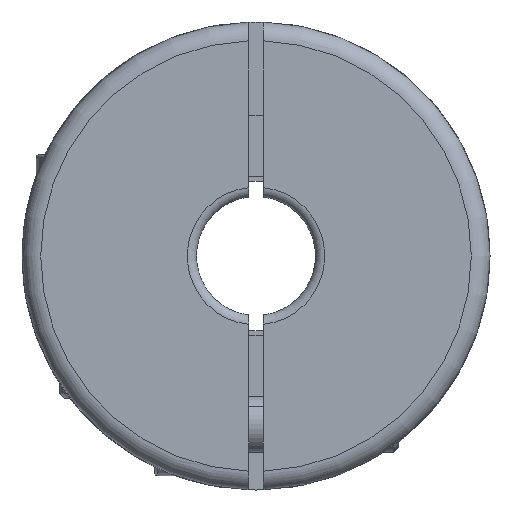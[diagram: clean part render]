
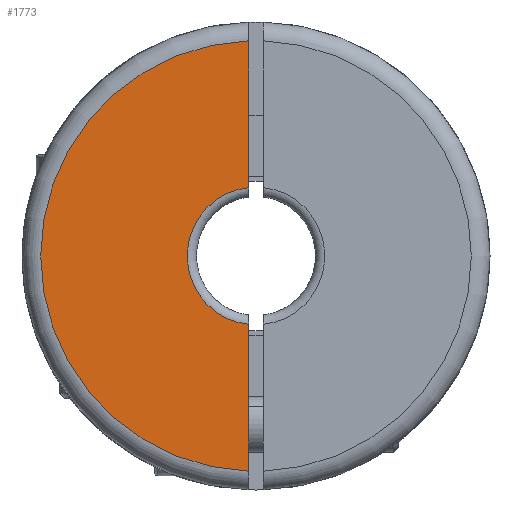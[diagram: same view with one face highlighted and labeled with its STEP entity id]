
A CAD part, left-side view. The second image highlights one B-rep face of the part: STEP entity #1773.
In plain terms, the highlighted planar face has unit normal (-1, 0, 0).
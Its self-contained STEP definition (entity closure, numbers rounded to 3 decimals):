
#2 = CIRCLE ( 'NONE', #2083, 3.675 ) ;
#19 = CARTESIAN_POINT ( 'NONE',  ( -15.5, 0.4, 12.494 ) ) ;
#149 = CARTESIAN_POINT ( 'NONE',  ( -15.5, 0., 0. ) ) ;
#166 = LINE ( 'NONE', #2839, #2741 ) ;
#247 = ORIENTED_EDGE ( 'NONE', *, *, #3742, .T. ) ;
#499 = DIRECTION ( 'NONE',  ( 0., 0., -1. ) ) ;
#714 = DIRECTION ( 'NONE',  ( -1., 0., 0. ) ) ;
#750 = VERTEX_POINT ( 'NONE', #3282 ) ;
#917 = VERTEX_POINT ( 'NONE', #3242 ) ;
#1040 = FACE_OUTER_BOUND ( 'NONE', #4424, .T. ) ;
#1098 = EDGE_CURVE ( 'NONE', #750, #917, #2584, .T. ) ;
#1216 = CARTESIAN_POINT ( 'NONE',  ( -15.5, 0., 0. ) ) ;
#1233 = EDGE_CURVE ( 'NONE', #3837, #750, #4032, .T. ) ;
#1242 = AXIS2_PLACEMENT_3D ( 'NONE', #2818, #714, #3180 ) ;
#1310 = EDGE_CURVE ( 'NONE', #917, #4487, #166, .T. ) ;
#1311 = AXIS2_PLACEMENT_3D ( 'NONE', #1216, #3689, #1567 ) ;
#1567 = DIRECTION ( 'NONE',  ( 0., 0., -1. ) ) ;
#1773 = ADVANCED_FACE ( 'NONE', ( #1040 ), #2249, .F. ) ;
#1791 = DIRECTION ( 'NONE',  ( 0., 0., 1. ) ) ;
#1882 = ORIENTED_EDGE ( 'NONE', *, *, #1310, .T. ) ;
#2083 = AXIS2_PLACEMENT_3D ( 'NONE', #149, #2607, #499 ) ;
#2249 = PLANE ( 'NONE',  #1311 ) ;
#2584 = CIRCLE ( 'NONE', #1242, 11.5 ) ;
#2607 = DIRECTION ( 'NONE',  ( 1., 0., 0. ) ) ;
#2615 = ORIENTED_EDGE ( 'NONE', *, *, #1098, .T. ) ;
#2741 = VECTOR ( 'NONE', #3918, 1000. ) ;
#2818 = CARTESIAN_POINT ( 'NONE',  ( -15.5, 0., 0. ) ) ;
#2839 = CARTESIAN_POINT ( 'NONE',  ( -15.5, 0.4, 12.494 ) ) ;
#3076 = VECTOR ( 'NONE', #1791, 1000. ) ;
#3180 = DIRECTION ( 'NONE',  ( 0., 0., -1. ) ) ;
#3242 = CARTESIAN_POINT ( 'NONE',  ( -15.5, 0.4, -11.493 ) ) ;
#3269 = CARTESIAN_POINT ( 'NONE',  ( -15.5, 0.4, -3.653 ) ) ;
#3282 = CARTESIAN_POINT ( 'NONE',  ( -15.5, 0.4, 11.493 ) ) ;
#3689 = DIRECTION ( 'NONE',  ( 1., 0., 0. ) ) ;
#3742 = EDGE_CURVE ( 'NONE', #4487, #3837, #2, .T. ) ;
#3754 = ORIENTED_EDGE ( 'NONE', *, *, #1233, .T. ) ;
#3771 = CARTESIAN_POINT ( 'NONE',  ( -15.5, 0.4, 3.653 ) ) ;
#3837 = VERTEX_POINT ( 'NONE', #3771 ) ;
#3918 = DIRECTION ( 'NONE',  ( 0., 0., 1. ) ) ;
#4032 = LINE ( 'NONE', #19, #3076 ) ;
#4424 = EDGE_LOOP ( 'NONE', ( #1882, #247, #3754, #2615 ) ) ;
#4487 = VERTEX_POINT ( 'NONE', #3269 ) ;
